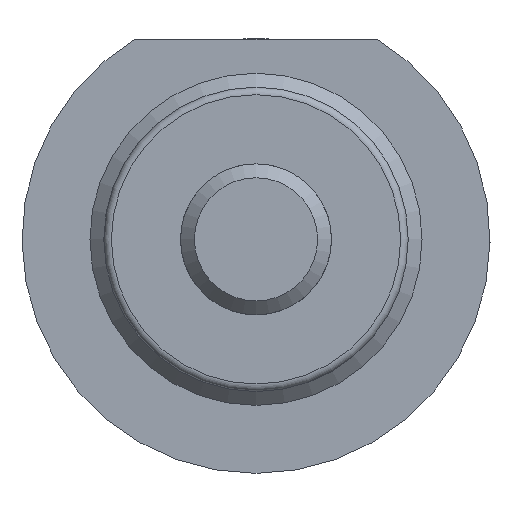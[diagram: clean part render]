
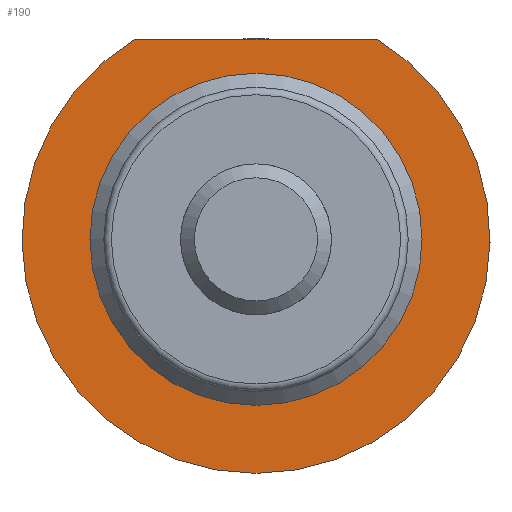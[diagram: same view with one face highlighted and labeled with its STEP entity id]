
A CAD part, left-side view. The second image highlights one B-rep face of the part: STEP entity #190.
In plain terms, the highlighted planar face has unit normal (-1, 0, 0).
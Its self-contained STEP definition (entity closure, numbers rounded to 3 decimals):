
#190 = ADVANCED_FACE( '', ( #293, #294 ), #295, .F. );
#293 = FACE_OUTER_BOUND( '', #469, .T. );
#294 = FACE_BOUND( '', #470, .T. );
#295 = PLANE( '', #471 );
#469 = EDGE_LOOP( '', ( #707, #708 ) );
#470 = EDGE_LOOP( '', ( #709 ) );
#471 = AXIS2_PLACEMENT_3D( '', #710, #711, #712 );
#707 = ORIENTED_EDGE( '', *, *, #986, .F. );
#708 = ORIENTED_EDGE( '', *, *, #987, .T. );
#709 = ORIENTED_EDGE( '', *, *, #978, .T. );
#710 = CARTESIAN_POINT( '', ( 0., 11., 0. ) );
#711 = DIRECTION( '', ( 1., 0., 0. ) );
#712 = DIRECTION( '', ( 0., 0., -1. ) );
#978 = EDGE_CURVE( '', #1090, #1090, #1091, .T. );
#986 = EDGE_CURVE( '', #1103, #1101, #1105, .T. );
#987 = EDGE_CURVE( '', #1103, #1101, #1106, .T. );
#1090 = VERTEX_POINT( '', #1420 );
#1091 = CIRCLE( '', #1421, 11. );
#1101 = VERTEX_POINT( '', #1433 );
#1103 = VERTEX_POINT( '', #1436 );
#1105 = CIRCLE( '', #1439, 15.5 );
#1106 = LINE( '', #1440, #1441 );
#1420 = CARTESIAN_POINT( '', ( 0., 0., -11. ) );
#1421 = AXIS2_PLACEMENT_3D( '', #1616, #1617, #1618 );
#1433 = CARTESIAN_POINT( '', ( 0., 8.043, 13.25 ) );
#1436 = CARTESIAN_POINT( '', ( 0., -8.043, 13.25 ) );
#1439 = AXIS2_PLACEMENT_3D( '', #1632, #1633, #1634 );
#1440 = CARTESIAN_POINT( '', ( 0., -53.2, 13.25 ) );
#1441 = VECTOR( '', #1635, 1000. );
#1616 = CARTESIAN_POINT( '', ( 0., 0., 0. ) );
#1617 = DIRECTION( '', ( 1., 0., 0. ) );
#1618 = DIRECTION( '', ( 0., 0., -1. ) );
#1632 = CARTESIAN_POINT( '', ( 0., 0., 0. ) );
#1633 = DIRECTION( '', ( 1., 0., 0. ) );
#1634 = DIRECTION( '', ( 0., 0., -1. ) );
#1635 = DIRECTION( '', ( 0., 1., 0. ) );
